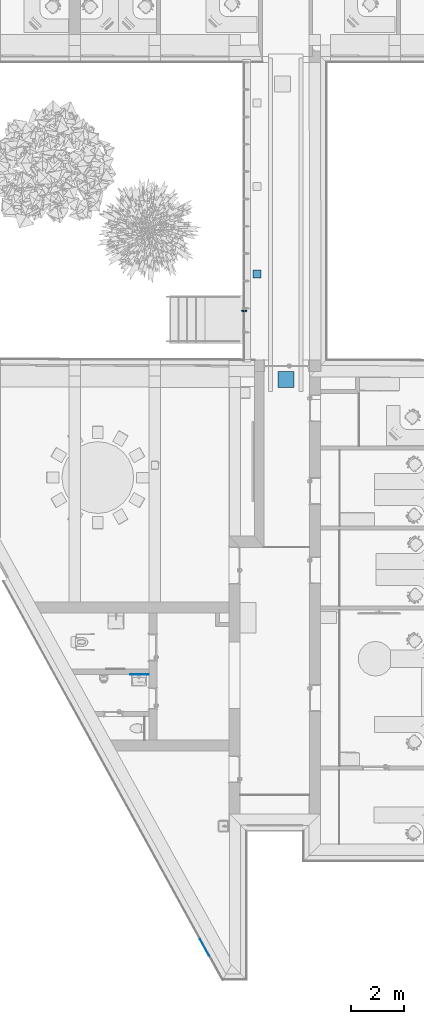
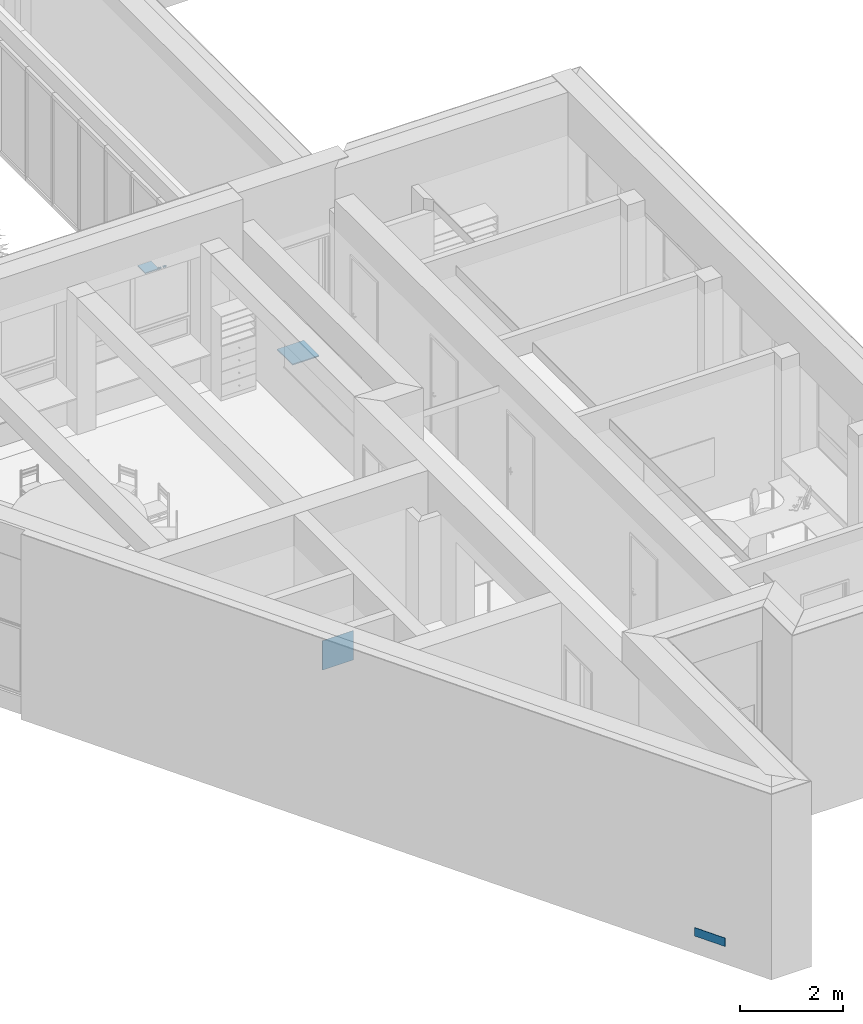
# One storey, part 37 of 194: 4 discrete accessories, 1 building element part, 2 elements without a shape of their own.
"""IFC2X3 building model written with IfcOpenShell, lengths in millimetres."""

from ifc_helpers import new_model, entity, si_unit, converted_unit, derived_unit, money_unit, direction, frame, origin_with_axes, place, context, subcontext, project, spatial, polyline, outline, extrude, open_shell, faceted_brep, surface_model, source, transform, mapped, material, type_object, element, aggregate, save


model = new_model("IFC2X3")

# Units and contexts
model_context = context("Model", 3, precision=1e-05, world=origin_with_axes(), true_north=direction((0.0, 1.0)))
body_context = subcontext(model_context, "Body", "Model", "MODEL_VIEW")
ifc_project = project(units=[si_unit("LENGTHUNIT", "METRE", prefix="MILLI"), si_unit("AREAUNIT", "SQUARE_METRE"), si_unit("VOLUMEUNIT", "CUBIC_METRE"), converted_unit("PLANEANGLEUNIT", "DEGREE", entity("IfcPlaneAngleMeasure", 0.0174532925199), si_unit("PLANEANGLEUNIT", "RADIAN"), dimensions=[0, 0, 0, 0, 0, 0, 0]), si_unit("SOLIDANGLEUNIT", "STERADIAN"), money_unit("EUR"), converted_unit("TIMEUNIT", "Year", entity("IfcTimeMeasure", 31556926.0), si_unit("TIMEUNIT", "SECOND"), dimensions=[0, 0, 1, 0, 0, 0, 0]), si_unit("MASSUNIT", "GRAM", prefix="KILO"), si_unit("THERMODYNAMICTEMPERATUREUNIT", "DEGREE_CELSIUS"), si_unit("LUMINOUSINTENSITYUNIT", "LUMEN"), si_unit("ENERGYUNIT", "JOULE", prefix="MEGA"), derived_unit("THERMALCONDUCTANCEUNIT", [(si_unit("POWERUNIT", "WATT"), 1), (si_unit("LENGTHUNIT", "METRE"), -1), (si_unit("THERMODYNAMICTEMPERATUREUNIT", "KELVIN"), -1)]), derived_unit("SPECIFICHEATCAPACITYUNIT", [(si_unit("ENERGYUNIT", "JOULE"), 1), (si_unit("MASSUNIT", "GRAM", prefix="KILO"), -1), (si_unit("THERMODYNAMICTEMPERATUREUNIT", "KELVIN"), -1)]), derived_unit("MASSDENSITYUNIT", [(si_unit("MASSUNIT", "GRAM", prefix="KILO"), 1), (si_unit("VOLUMEUNIT", "CUBIC_METRE"), -1)])], contexts=[model_context])

# Site, building, storey
site_placement = place(None, origin_with_axes())
site = spatial("IfcSite", under=ifc_project, at=site_placement, Name="Site", CompositionType="ELEMENT")
building_placement = place(site_placement, origin_with_axes())
building = spatial("IfcBuilding", under=site, at=building_placement, Name="Building", CompositionType="ELEMENT")
storey_placement = place(building_placement, frame((0.0, 0.0, 3000.0), z_axis=(0.0, 0.0, 1.0), x_axis=(1.0, 0.0, 0.0)))
storey = spatial("IfcBuildingStorey", under=building, at=storey_placement, Name="2 KORRUS", CompositionType="ELEMENT", Elevation=3000.0)

# Discrete accessories
ifc_material_1 = material(Name="Peegel")
discrete_accessory_type_1 = type_object("IfcDiscreteAccessoryType", Name="Peegel 5")
discrete_accessory_1_placement = place(storey_placement, frame((33720.0232175, 11184.2182637, 1200.0), z_axis=(0.0, 0.0, 1.0), x_axis=(-1.0, 0.0, 0.0)))
element("IfcDiscreteAccessory", 1, at=discrete_accessory_1_placement, inside=storey, type_object=discrete_accessory_type_1, material=ifc_material_1, Name="Peegel", context=body_context, shape_type="SweptSolid", body=[
    extrude(outline(polyline([(0.0, 0.0), (700.000000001, 0.0), (700.000000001, 5.00000000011), (0.0, 5.00000000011), (0.0, 0.0)])), origin_with_axes(), (0.0, 0.0, 1.0), 700.0),
])
discrete_accessory_type_2 = type_object("IfcDiscreteAccessoryType", Name="Cube 22")
shared_shape_1 = source(origin_with_axes(), body_context, "Body", "Brep", [
    faceted_brep([(10.0, 0.0, 0.0), (0.0, 0.0, 0.0), (0.0, 700.0, 0.0), (10.0, 700.0, 0.0), (10.0, 0.0, 200.0), (0.0, 0.0, 200.0), (0.0, 700.0, 200.0), (10.0, 700.0, 200.0)], [[[0, 1, 2, 3]], [[1, 0, 4, 5]], [[2, 1, 5, 6]], [[3, 2, 6, 7]], [[0, 3, 7, 4]], [[5, 4, 7, 6]]]),
])
discrete_accessory_2_placement = place(storey_placement, frame((35645.3705121, 1251.01880186, 0.0), z_axis=(0.0, 0.0, 1.0), x_axis=(-0.876214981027, -0.481920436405, 0.0)))
element("IfcDiscreteAccessory", 2, at=discrete_accessory_2_placement, inside=storey, type_object=discrete_accessory_type_2, Name="FU - 001", context=body_context, shape_type="MappedRepresentation", body=[
    mapped(shared_shape_1, transform((0.0, 0.0, 0.0))),
])

# Curtain wall, door, building element part
curtain_wall_type = type_object("IfcCurtainWallType", Name="KS-2", PredefinedType="NOTDEFINED")
curtain_wall_placement = place(storey_placement, frame((37291.3079908, 33624.5964496, -0.000166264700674), z_axis=(0.0, 0.0, 1.0), x_axis=(1.0, 0.0, 0.0)))
curtain_wall = element("IfcCurtainWall", 3, at=curtain_wall_placement, inside=storey, type_object=curtain_wall_type, Name="KS")
door_style = type_object("IfcDoorStyle", Name="Distinct Panel 900 x 30 x 20", ConstructionType="NOTDEFINED", OperationType="NOTDEFINED", ParameterTakesPrecedence=False, Sizeable=False)
door_placement = place(curtain_wall_placement, frame((0.0, -9162.5, 1250.00017528), z_axis=(0.0, 0.0, 1.0), x_axis=(0.0, -1.0, 0.0)))
door = element("IfcDoor", 4, at=door_placement, type_object=door_style, Name="Välisuks * CW Door 22")
aggregate(curtain_wall, [door])
ifc_material_2 = material(Name="Teras - Roostevaba (1)")
shared_shape_2 = source(origin_with_axes(), body_context, "Body", "SurfaceModel", [
    surface_model("IfcShellBasedSurfaceModel", [(-813.000010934, 1008.0, 85.2132034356), (-805.000010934, 1011.3137085, 85.2132034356), (-805.000010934, 1016.26690269, 87.275238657), (-816.502448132, 1011.5024372, 87.275238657), (-816.313719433, 1000.0, 85.2132034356), (-813.000010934, 992.0, 85.2132034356), (-805.000010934, 988.686291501, 85.2132034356), (-797.000010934, 992.0, 85.2132034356), (-793.686302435, 1000.0, 85.2132034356), (-797.000010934, 1008.0, 85.2132034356), (-793.497573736, 1011.5024372, 87.275238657), (-805.000010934, 1021.22498528, 85.2249852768), (-820.008341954, 1015.00833102, 85.2249852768), (-821.26691362, 1000.0, 87.275238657), (-816.502448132, 988.497562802, 87.275238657), (-805.000010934, 983.733097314, 87.275238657), (-793.497573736, 988.497562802, 87.275238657), (-788.733108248, 1000.0, 87.275238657), (-789.991679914, 1015.00833102, 85.2249852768), (-805.000010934, 1029.75923719, 60.0772711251), (-826.042969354, 1021.04295842, 60.0772711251), (-826.224996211, 1000.0, 85.2249852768), (-820.008341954, 984.99166898, 85.2249852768), (-805.000010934, 978.775014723, 85.2249852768), (-789.991679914, 984.99166898, 85.2249852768), (-783.775025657, 1000.0, 85.2249852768), (-783.957052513, 1021.04295842, 60.0772711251), (-805.000010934, 1015.0, 38.0), (-815.606612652, 1010.60660172, 38.0), (-834.759248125, 1000.0, 60.0772711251), (-826.042969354, 978.957041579, 60.0772711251), (-805.000010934, 970.240762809, 60.0772711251), (-783.957052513, 978.957041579, 60.0772711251), (-775.240773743, 1000.0, 60.0772711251), (-794.393409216, 1010.60660172, 38.0), (-805.000010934, 1015.0, 37.98), (-815.606612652, 1010.60660172, 37.98), (-820.000010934, 1000.0, 38.0), (-815.606612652, 989.393398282, 38.0), (-805.000010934, 985.0, 38.0), (-794.393409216, 989.393398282, 38.0), (-790.000010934, 1000.0, 38.0), (-794.393409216, 1010.60660172, 37.98), (-805.000010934, 1015.0, 30.1), (-815.606612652, 1010.60660172, 30.1), (-820.000010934, 1000.0, 37.98), (-815.606612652, 989.393398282, 37.98), (-805.000010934, 985.0, 37.98), (-794.393409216, 989.393398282, 37.98), (-790.000010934, 1000.0, 37.98), (-794.393409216, 1010.60660172, 30.1), (-805.000010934, 1015.0, 30.0), (-815.606612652, 1010.60660172, 30.0), (-820.000010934, 1000.0, 30.1), (-815.606612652, 989.393398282, 30.1), (-805.000010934, 985.0, 30.1), (-794.393409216, 989.393398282, 30.1), (-790.000010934, 1000.0, 30.1), (-794.393409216, 1010.60660172, 30.0), (-805.000010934, 1015.1, 30.0), (-815.67732333, 1010.6773124, 30.0), (-820.000010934, 1000.0, 30.0), (-815.606612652, 989.393398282, 30.0), (-805.000010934, 985.0, 30.0), (-794.393409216, 989.393398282, 30.0), (-790.000010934, 1000.0, 30.0), (-794.322698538, 1010.6773124, 30.0), (-805.000010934, 1026.9, 30.0), (-824.021183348, 1019.02117241, 30.0), (-820.100010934, 1000.0, 30.0), (-815.67732333, 989.322687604, 30.0), (-805.000010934, 984.9, 30.0), (-794.322698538, 989.322687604, 30.0), (-789.900010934, 1000.0, 30.0), (-785.97883852, 1019.02117241, 30.0), (-805.000010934, 1027.0, 30.0), (-824.091894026, 1019.09188309, 30.0), (-831.900010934, 1000.0, 30.0), (-824.021183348, 980.978827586, 30.0), (-805.000010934, 973.1, 30.0), (-785.97883852, 980.978827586, 30.0), (-778.100010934, 1000.0, 30.0), (-785.908127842, 1019.09188309, 30.0), (-805.000010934, 1027.0, 29.9), (-824.091894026, 1019.09188309, 29.9), (-832.000010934, 1000.0, 30.0), (-824.091894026, 980.908116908, 30.0), (-805.000010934, 973.0, 30.0), (-785.908127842, 980.908116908, 30.0), (-778.000010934, 1000.0, 30.0), (-785.908127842, 1019.09188309, 29.9), (-805.000010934, 1027.0, 20.0), (-824.091894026, 1019.09188309, 20.0), (-832.000010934, 1000.0, 29.9), (-824.091894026, 980.908116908, 29.9), (-805.000010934, 973.0, 29.9), (-785.908127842, 980.908116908, 29.9), (-778.000010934, 1000.0, 29.9), (-785.908127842, 1019.09188309, 20.0), (-832.000010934, 1000.0, 20.0), (-824.091894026, 980.908116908, 20.0), (-805.000010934, 973.0, 20.0), (-785.908127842, 980.908116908, 20.0), (-778.000010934, 1000.0, 20.0)], [open_shell([[[0, 1, 2, 3]], [[1, 0, 4, 5, 6, 7, 8, 9]], [[1, 9, 10, 2]], [[3, 2, 11, 12]], [[4, 0, 3, 13]], [[5, 4, 13, 14]], [[6, 5, 14, 15]], [[7, 6, 15, 16]], [[8, 7, 16, 17]], [[9, 8, 17, 10]], [[2, 10, 18, 11]], [[12, 11, 19, 20]], [[13, 3, 12, 21]], [[14, 13, 21, 22]], [[15, 14, 22, 23]], [[16, 15, 23, 24]], [[17, 16, 24, 25]], [[10, 17, 25, 18]], [[11, 18, 26, 19]], [[20, 19, 27, 28]], [[21, 12, 20, 29]], [[22, 21, 29, 30]], [[23, 22, 30, 31]], [[24, 23, 31, 32]], [[25, 24, 32, 33]], [[18, 25, 33, 26]], [[19, 26, 34, 27]], [[28, 27, 35, 36]], [[29, 20, 28, 37]], [[30, 29, 37, 38]], [[31, 30, 38, 39]], [[32, 31, 39, 40]], [[33, 32, 40, 41]], [[26, 33, 41, 34]], [[27, 34, 42, 35]], [[36, 35, 43, 44]], [[37, 28, 36, 45]], [[38, 37, 45, 46]], [[39, 38, 46, 47]], [[40, 39, 47, 48]], [[41, 40, 48, 49]], [[34, 41, 49, 42]], [[35, 42, 50, 43]], [[44, 43, 51, 52]], [[45, 36, 44, 53]], [[46, 45, 53, 54]], [[47, 46, 54, 55]], [[48, 47, 55, 56]], [[49, 48, 56, 57]], [[42, 49, 57, 50]], [[43, 50, 58, 51]], [[52, 51, 59, 60]], [[53, 44, 52, 61]], [[54, 53, 61, 62]], [[55, 54, 62, 63]], [[56, 55, 63, 64]], [[57, 56, 64, 65]], [[50, 57, 65, 58]], [[51, 58, 66, 59]], [[60, 59, 67, 68]], [[61, 52, 60, 69]], [[62, 61, 69, 70]], [[63, 62, 70, 71]], [[64, 63, 71, 72]], [[65, 64, 72, 73]], [[58, 65, 73, 66]], [[59, 66, 74, 67]], [[68, 67, 75, 76]], [[69, 60, 68, 77]], [[70, 69, 77, 78]], [[71, 70, 78, 79]], [[72, 71, 79, 80]], [[73, 72, 80, 81]], [[66, 73, 81, 74]], [[67, 74, 82, 75]], [[76, 75, 83, 84]], [[77, 68, 76, 85]], [[78, 77, 85, 86]], [[79, 78, 86, 87]], [[80, 79, 87, 88]], [[81, 80, 88, 89]], [[74, 81, 89, 82]], [[75, 82, 90, 83]], [[84, 83, 91, 92]], [[85, 76, 84, 93]], [[86, 85, 93, 94]], [[87, 86, 94, 95]], [[88, 87, 95, 96]], [[89, 88, 96, 97]], [[82, 89, 97, 90]], [[83, 90, 98, 91]], [[93, 84, 92, 99]], [[94, 93, 99, 100]], [[95, 94, 100, 101]], [[96, 95, 101, 102]], [[97, 96, 102, 103]], [[90, 97, 103, 98]]])]),
    faceted_brep([(-797.575389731, 992.575378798, 85.2132034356), (-805.000010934, 989.5, 85.2132034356), (-812.424632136, 992.575378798, 85.2132034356), (-815.500010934, 1000.0, 85.2132034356), (-812.424632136, 1007.4246212, 85.2132034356), (-805.000010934, 1010.5, 85.2132034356), (-797.575389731, 1007.4246212, 85.2132034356), (-794.500010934, 1000.0, 85.2132034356), (-797.575389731, 992.575378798, 86.7132034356), (-805.000010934, 989.5, 86.7132034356), (-812.424632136, 992.575378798, 86.7132034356), (-815.500010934, 1000.0, 86.7132034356), (-812.424632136, 1007.4246212, 86.7132034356), (-805.000010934, 1010.5, 86.7132034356), (-797.575389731, 1007.4246212, 86.7132034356), (-794.500010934, 1000.0, 86.7132034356)], [[[0, 1, 2, 3, 4, 5, 6, 7]], [[1, 0, 8, 9]], [[2, 1, 9, 10]], [[3, 2, 10, 11]], [[4, 3, 11, 12]], [[5, 4, 12, 13]], [[6, 5, 13, 14]], [[7, 6, 14, 15]], [[0, 7, 15, 8]], [[8, 15, 14, 13, 12, 11, 10, 9]]]),
    faceted_brep([(-803.500010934, 990.0, 86.7132034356), (-803.500010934, 992.928932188, 93.7842712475), (-806.500010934, 992.928932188, 93.7842712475), (-806.500010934, 990.0, 86.7132034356), (-803.500010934, 1010.0, 86.7132034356), (-803.500010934, 1007.07106781, 93.7842712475), (-803.500010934, 1000.0, 96.7132034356), (-806.500010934, 1000.0, 96.7132034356), (-806.500010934, 1007.07106781, 93.7842712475), (-806.500010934, 1010.0, 86.7132034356)], [[[0, 1, 2, 3]], [[0, 4, 5, 6, 1]], [[1, 6, 7, 2]], [[3, 2, 7, 8, 9]], [[4, 0, 3, 9]], [[5, 4, 9, 8]], [[6, 5, 8, 7]]]),
    surface_model("IfcShellBasedSurfaceModel", [(-813.000010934, 1008.0, -95.2132034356), (-816.502448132, 1011.5024372, -97.275238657), (-805.000010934, 1016.26690269, -97.275238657), (-805.000010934, 1011.3137085, -95.2132034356), (-816.313719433, 1000.0, -95.2132034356), (-821.26691362, 1000.0, -97.275238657), (-820.008341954, 1015.00833102, -95.2249852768), (-805.000010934, 1021.22498528, -95.2249852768), (-793.497573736, 1011.5024372, -97.275238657), (-797.000010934, 1008.0, -95.2132034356), (-793.686302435, 1000.0, -95.2132034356), (-797.000010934, 992.0, -95.2132034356), (-805.000010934, 988.686291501, -95.2132034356), (-813.000010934, 992.0, -95.2132034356), (-816.502448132, 988.497562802, -97.275238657), (-826.224996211, 1000.0, -95.2249852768), (-826.042969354, 1021.04295842, -70.0772711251), (-805.000010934, 1029.75923719, -70.0772711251), (-789.991679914, 1015.00833102, -95.2249852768), (-788.733108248, 1000.0, -97.275238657), (-793.497573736, 988.497562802, -97.275238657), (-805.000010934, 983.733097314, -97.275238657), (-820.008341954, 984.99166898, -95.2249852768), (-834.759248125, 1000.0, -70.0772711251), (-815.606612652, 1010.60660172, -48.0), (-805.000010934, 1015.0, -48.0), (-783.957052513, 1021.04295842, -70.0772711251), (-783.775025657, 1000.0, -95.2249852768), (-789.991679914, 984.99166898, -95.2249852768), (-805.000010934, 978.775014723, -95.2249852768), (-826.042969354, 978.957041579, -70.0772711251), (-820.000010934, 1000.0, -48.0), (-815.606612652, 1010.60660172, -47.98), (-805.000010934, 1015.0, -47.98), (-794.393409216, 1010.60660172, -48.0), (-775.240773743, 1000.0, -70.0772711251), (-783.957052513, 978.957041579, -70.0772711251), (-805.000010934, 970.240762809, -70.0772711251), (-815.606612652, 989.393398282, -48.0), (-820.000010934, 1000.0, -47.98), (-815.606612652, 1010.60660172, -40.1), (-805.000010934, 1015.0, -40.1), (-794.393409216, 1010.60660172, -47.98), (-790.000010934, 1000.0, -48.0), (-794.393409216, 989.393398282, -48.0), (-805.000010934, 985.0, -48.0), (-815.606612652, 989.393398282, -47.98), (-820.000010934, 1000.0, -40.1), (-815.606612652, 1010.60660172, -40.0), (-805.000010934, 1015.0, -40.0), (-794.393409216, 1010.60660172, -40.1), (-790.000010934, 1000.0, -47.98), (-794.393409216, 989.393398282, -47.98), (-805.000010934, 985.0, -47.98), (-815.606612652, 989.393398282, -40.1), (-820.000010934, 1000.0, -40.0), (-815.67732333, 1010.6773124, -40.0), (-805.000010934, 1015.1, -40.0), (-794.393409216, 1010.60660172, -40.0), (-790.000010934, 1000.0, -40.1), (-794.393409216, 989.393398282, -40.1), (-805.000010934, 985.0, -40.1), (-815.606612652, 989.393398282, -40.0), (-820.100010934, 1000.0, -40.0), (-824.021183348, 1019.02117241, -40.0), (-805.000010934, 1026.9, -40.0), (-794.322698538, 1010.6773124, -40.0), (-790.000010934, 1000.0, -40.0), (-794.393409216, 989.393398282, -40.0), (-805.000010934, 985.0, -40.0), (-815.67732333, 989.322687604, -40.0), (-831.900010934, 1000.0, -40.0), (-824.091894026, 1019.09188309, -40.0), (-805.000010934, 1027.0, -40.0), (-785.97883852, 1019.02117241, -40.0), (-789.900010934, 1000.0, -40.0), (-794.322698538, 989.322687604, -40.0), (-805.000010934, 984.9, -40.0), (-824.021183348, 980.978827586, -40.0), (-832.000010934, 1000.0, -40.0), (-824.091894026, 1019.09188309, -39.9), (-805.000010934, 1027.0, -39.9), (-785.908127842, 1019.09188309, -40.0), (-778.100010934, 1000.0, -40.0), (-785.97883852, 980.978827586, -40.0), (-805.000010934, 973.1, -40.0), (-824.091894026, 980.908116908, -40.0), (-832.000010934, 1000.0, -39.9), (-824.091894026, 1019.09188309, -30.0), (-805.000010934, 1027.0, -30.0), (-785.908127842, 1019.09188309, -39.9), (-778.000010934, 1000.0, -40.0), (-785.908127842, 980.908116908, -40.0), (-805.000010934, 973.0, -40.0), (-824.091894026, 980.908116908, -39.9), (-832.000010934, 1000.0, -30.0), (-785.908127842, 1019.09188309, -30.0), (-778.000010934, 1000.0, -39.9), (-785.908127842, 980.908116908, -39.9), (-805.000010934, 973.0, -39.9), (-824.091894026, 980.908116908, -30.0), (-778.000010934, 1000.0, -30.0), (-785.908127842, 980.908116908, -30.0), (-805.000010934, 973.0, -30.0)], [open_shell([[[0, 1, 2, 3]], [[4, 5, 1, 0]], [[1, 6, 7, 2]], [[3, 2, 8, 9]], [[3, 9, 10, 11, 12, 13, 4, 0]], [[13, 14, 5, 4]], [[5, 15, 6, 1]], [[6, 16, 17, 7]], [[2, 7, 18, 8]], [[9, 8, 19, 10]], [[10, 19, 20, 11]], [[11, 20, 21, 12]], [[12, 21, 14, 13]], [[14, 22, 15, 5]], [[15, 23, 16, 6]], [[16, 24, 25, 17]], [[7, 17, 26, 18]], [[8, 18, 27, 19]], [[19, 27, 28, 20]], [[20, 28, 29, 21]], [[21, 29, 22, 14]], [[22, 30, 23, 15]], [[23, 31, 24, 16]], [[24, 32, 33, 25]], [[17, 25, 34, 26]], [[18, 26, 35, 27]], [[27, 35, 36, 28]], [[28, 36, 37, 29]], [[29, 37, 30, 22]], [[30, 38, 31, 23]], [[31, 39, 32, 24]], [[32, 40, 41, 33]], [[25, 33, 42, 34]], [[26, 34, 43, 35]], [[35, 43, 44, 36]], [[36, 44, 45, 37]], [[37, 45, 38, 30]], [[38, 46, 39, 31]], [[39, 47, 40, 32]], [[40, 48, 49, 41]], [[33, 41, 50, 42]], [[34, 42, 51, 43]], [[43, 51, 52, 44]], [[44, 52, 53, 45]], [[45, 53, 46, 38]], [[46, 54, 47, 39]], [[47, 55, 48, 40]], [[48, 56, 57, 49]], [[41, 49, 58, 50]], [[42, 50, 59, 51]], [[51, 59, 60, 52]], [[52, 60, 61, 53]], [[53, 61, 54, 46]], [[54, 62, 55, 47]], [[55, 63, 56, 48]], [[56, 64, 65, 57]], [[49, 57, 66, 58]], [[50, 58, 67, 59]], [[59, 67, 68, 60]], [[60, 68, 69, 61]], [[61, 69, 62, 54]], [[62, 70, 63, 55]], [[63, 71, 64, 56]], [[64, 72, 73, 65]], [[57, 65, 74, 66]], [[58, 66, 75, 67]], [[67, 75, 76, 68]], [[68, 76, 77, 69]], [[69, 77, 70, 62]], [[70, 78, 71, 63]], [[71, 79, 72, 64]], [[72, 80, 81, 73]], [[65, 73, 82, 74]], [[66, 74, 83, 75]], [[75, 83, 84, 76]], [[76, 84, 85, 77]], [[77, 85, 78, 70]], [[78, 86, 79, 71]], [[79, 87, 80, 72]], [[80, 88, 89, 81]], [[73, 81, 90, 82]], [[74, 82, 91, 83]], [[83, 91, 92, 84]], [[84, 92, 93, 85]], [[85, 93, 86, 78]], [[86, 94, 87, 79]], [[87, 95, 88, 80]], [[81, 89, 96, 90]], [[82, 90, 97, 91]], [[91, 97, 98, 92]], [[92, 98, 99, 93]], [[93, 99, 94, 86]], [[94, 100, 95, 87]], [[90, 96, 101, 97]], [[97, 101, 102, 98]], [[98, 102, 103, 99]], [[99, 103, 100, 94]]])]),
    faceted_brep([(-797.575389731, 992.575378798, -95.2132034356), (-794.500010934, 1000.0, -95.2132034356), (-797.575389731, 1007.4246212, -95.2132034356), (-805.000010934, 1010.5, -95.2132034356), (-812.424632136, 1007.4246212, -95.2132034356), (-815.500010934, 1000.0, -95.2132034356), (-812.424632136, 992.575378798, -95.2132034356), (-805.000010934, 989.5, -95.2132034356), (-797.575389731, 992.575378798, -96.7132034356), (-794.500010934, 1000.0, -96.7132034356), (-797.575389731, 1007.4246212, -96.7132034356), (-805.000010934, 1010.5, -96.7132034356), (-812.424632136, 1007.4246212, -96.7132034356), (-815.500010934, 1000.0, -96.7132034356), (-812.424632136, 992.575378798, -96.7132034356), (-805.000010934, 989.5, -96.7132034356)], [[[0, 1, 2, 3, 4, 5, 6, 7]], [[0, 8, 9, 1]], [[1, 9, 10, 2]], [[2, 10, 11, 3]], [[3, 11, 12, 4]], [[4, 12, 13, 5]], [[5, 13, 14, 6]], [[6, 14, 15, 7]], [[7, 15, 8, 0]], [[8, 15, 14, 13, 12, 11, 10, 9]]]),
    faceted_brep([(-803.500010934, 990.0, -96.7132034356), (-806.500010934, 990.0, -96.7132034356), (-806.500010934, 992.928932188, -103.784271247), (-803.500010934, 992.928932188, -103.784271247), (-803.500010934, 1010.0, -96.7132034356), (-806.500010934, 1010.0, -96.7132034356), (-806.500010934, 1007.07106781, -103.784271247), (-806.500010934, 1000.0, -106.713203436), (-803.500010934, 1000.0, -106.713203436), (-803.500010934, 1007.07106781, -103.784271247)], [[[0, 1, 2, 3]], [[4, 5, 1, 0]], [[1, 5, 6, 7, 2]], [[3, 2, 7, 8]], [[0, 3, 8, 9, 4]], [[9, 6, 5, 4]], [[8, 7, 6, 9]]]),
])
building_element_part_placement = place(door_placement, origin_with_axes())
building_element_part = element("IfcBuildingElementPart", 5, at=building_element_part_placement, material=ifc_material_2, Name="Teras - Roostevaba (1)", context=body_context, shape_type="MappedRepresentation", body=[
    mapped(shared_shape_2, transform((449.999999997, 0.0, -1250.00017528), x_axis=(1.0, 0.0, 0.0), y_axis=(0.0, 0.0, 1.0), z_axis=(0.0, -1.0, 0.0))),
])
aggregate(door, [building_element_part])

# Discrete accessories
discrete_accessory_type_3 = type_object("IfcDiscreteAccessoryType", Name="Cube 22")
shared_shape_3 = source(origin_with_axes(), body_context, "Body", "Brep", [
    faceted_brep([(300.0, 0.0, 0.0), (0.0, 0.0, 0.0), (0.0, 300.0, 0.0), (300.0, 300.0, 0.0), (300.0, 0.0, 24.7936240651), (0.0, 0.0, 24.7936240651), (0.0, 300.0, 24.7936240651), (300.0, 300.0, 24.7936240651)], [[[0, 1, 2, 3]], [[1, 0, 4, 5]], [[2, 1, 5, 6]], [[3, 2, 6, 7]], [[0, 3, 7, 4]], [[5, 4, 7, 6]]]),
])
discrete_accessory_3_placement = place(storey_placement, frame((37927.8736044, 26045.9471134, -24.7936240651), z_axis=(0.0, 0.0, 1.0), x_axis=(0.0, 1.0, 0.0)))
element("IfcDiscreteAccessory", 6, at=discrete_accessory_3_placement, inside=storey, type_object=discrete_accessory_type_3, Name="FU - 020", context=body_context, shape_type="MappedRepresentation", body=[
    mapped(shared_shape_3, transform((0.0, 0.0, 0.0))),
])
shared_shape_4 = source(origin_with_axes(), body_context, "Body", "Brep", [
    faceted_brep([(600.000000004, 0.0, 0.0), (0.0, 0.0, 0.0), (0.0, 600.0, 0.0), (600.000000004, 600.0, 0.0), (600.000000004, 0.0, 24.7936240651), (0.0, 0.0, 24.7936240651), (0.0, 600.0, 24.7936240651), (600.000000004, 600.0, 24.7936240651)], [[[0, 1, 2, 3]], [[1, 0, 4, 5]], [[2, 1, 5, 6]], [[3, 2, 6, 7]], [[0, 3, 7, 4]], [[5, 4, 7, 6]]]),
])
discrete_accessory_4_placement = place(storey_placement, frame((39158.0685274, 21934.0354602, -24.7936240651), z_axis=(0.0, 0.0, 1.0), x_axis=(0.0, 1.0, 0.0)))
element("IfcDiscreteAccessory", 7, at=discrete_accessory_4_placement, inside=storey, type_object=discrete_accessory_type_3, Name="FU - 020", context=body_context, shape_type="MappedRepresentation", body=[
    mapped(shared_shape_4, transform((0.0, 0.0, 0.0))),
])

save(model, "model.ifc")
